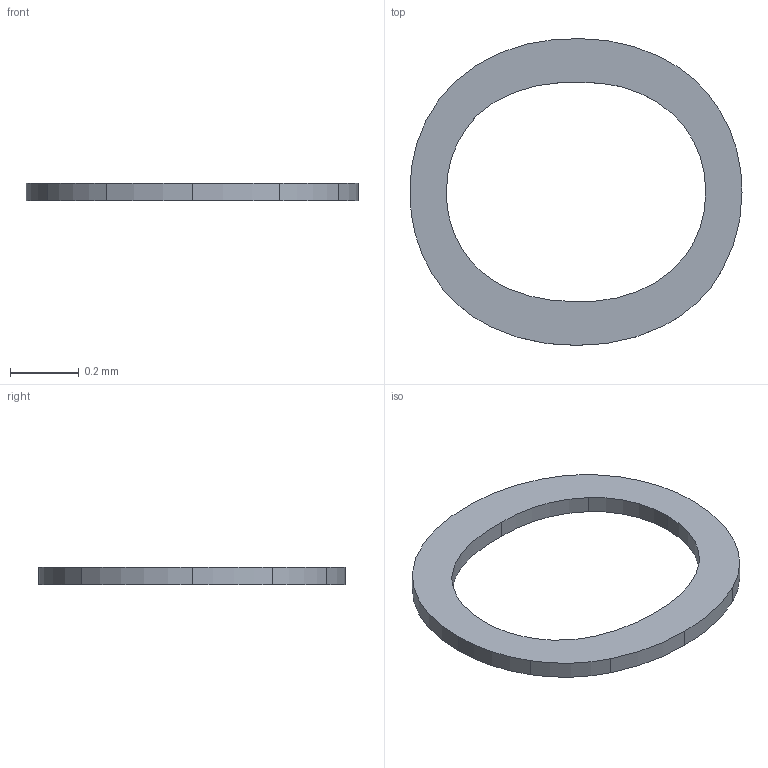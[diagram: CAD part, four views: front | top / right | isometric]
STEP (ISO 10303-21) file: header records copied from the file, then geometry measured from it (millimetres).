
FILE_DESCRIPTION(/* description */ ('STEP AP242 Edition 2','CAx-IF Rec.Pracs.---Representation and Presentation of Product Manufacturing Information (PMI)---4.0---2014-10-13','CAx-IF Rec.Pracs.---3D Tessellated Geometry---0.4---2014-09-14','2;1','CAx-IF Rec.Pracs.---User Defined Attributes---1.5---2016-08-15'),/* implementation_level */ '2;1');
FILE_NAME(/* name */ 'Drone Layout - Surface 306',/* time_stamp */ '2026-10-04T22:22:55Z',/* author */ (''),/* organization */ (''),/* preprocessor_version */ 'ST-DEVELOPER v20',/* originating_system */ 'ONSHAPE BY PTC INC, 1.221',/* authorisation */ ' ');
FILE_SCHEMA (('AP242_MANAGED_MODEL_BASED_3D_ENGINEERING_MIM_LF { 1 0 10303 442 3 1 4 }'));
Length unit declared in the file: metre
Products named in the file (1): Text_ADO
Bounding box: 0.97 x 0.89 x 0.05 mm (x, y, z)
Volume: 0 mm3; surface area: 0.9 mm2
Topology: 1 solids, 1 shells, 22 faces, 60 edges, 40 vertices
Faces by surface type: cylinder 20, plane 2
Entity records: 759 total; most frequent: CARTESIAN_POINT 177, DIRECTION 128, ORIENTED_EDGE 120, AXIS2_PLACEMENT_3D 63, EDGE_CURVE 60, CIRCLE 40, VERTEX_POINT 40, EDGE_LOOP 24
